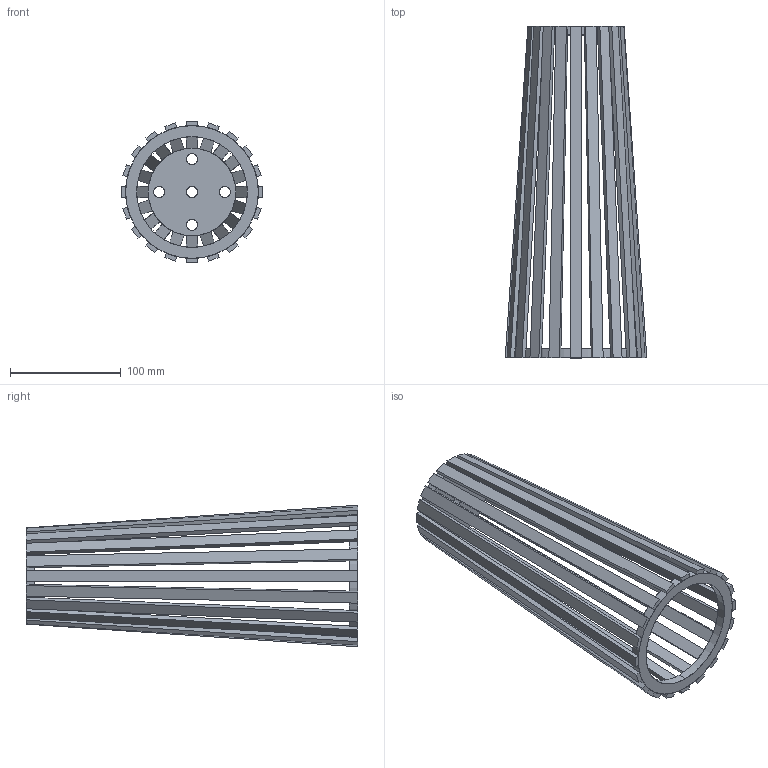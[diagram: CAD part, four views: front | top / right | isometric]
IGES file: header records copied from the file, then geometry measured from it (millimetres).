
Start section: SolidWorks IGES file using analytic representation for surfaces
Global section: file name: F:\GABRYSIA\MODELE 3D\_CAMELEON\KLOSZE I OPRAWY WWW\DOVER_8464_8463_WWW\DOVER_8464_8463.IGS; native system: SolidWorks 2017; preprocessor: SolidWorks 2017; author: Togambi; date: 200521.151201; units: millimetre
Bounding box: 128 x 300 x 128 mm (x, y, z)
Surface area: 194612.3 mm2 (no closed solid volume)
Topology: 0 solids, 0 shells, 140 faces, 1248 edges, 1248 vertices
Faces by surface type: bspline 124, revolution 16
